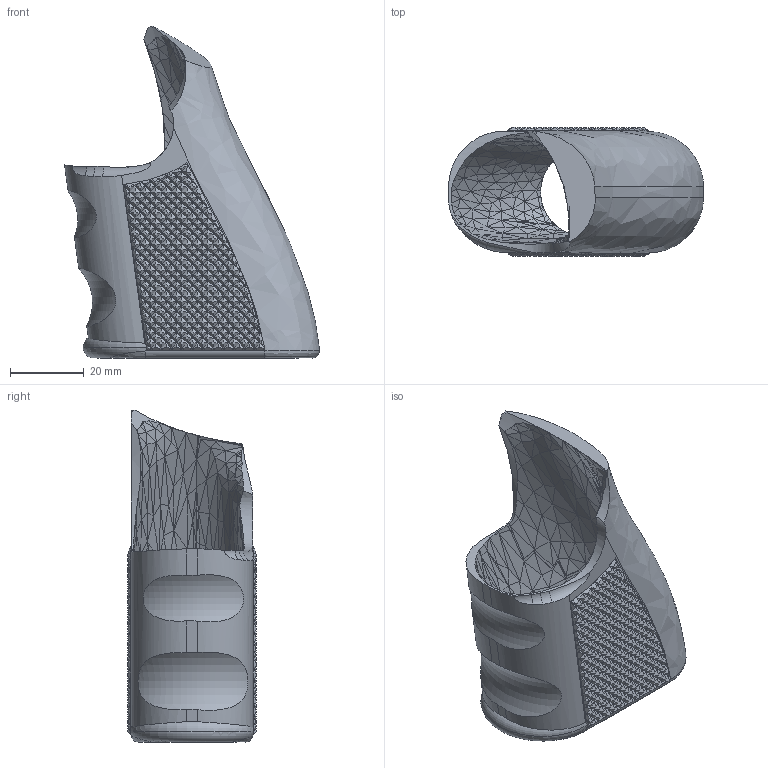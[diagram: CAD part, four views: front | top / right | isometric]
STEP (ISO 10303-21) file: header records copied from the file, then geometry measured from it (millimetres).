
FILE_DESCRIPTION(('FreeCAD Model'),'2;1');
FILE_NAME( 'D:/Dropbox/3D Projects/Pistol grip/Oculus Quest 2 Pistol Grip R.step' ,'2021-03-03T16:23:41',('Author'),(''), 'Open CASCADE STEP processor 7.3','FreeCAD','Unknown');
FILE_SCHEMA(('AUTOMOTIVE_DESIGN { 1 0 10303 214 1 1 1 1 }'));
Products named in the file (1): Cut013003005
Bounding box: 69.3 x 35 x 90.24 mm (x, y, z)
Volume: 53890.8 mm3; surface area: 19676.2 mm2
Topology: 1 solids, 1 shells, 4176 faces, 8445 edges, 4270 vertices
Faces by surface type: plane 4137, bspline 11, cylinder 10, extrusion 8, sphere 6, torus 4
Full cylindrical faces by diameter (mm): 24 x1
Entity records: 251208 total; most frequent: CARTESIAN_POINT 58190, DIRECTION 27106, VECTOR 18395, LINE 18387, ORIENTED_EDGE 16890, PCURVE 16890, DEFINITIONAL_REPRESENTATION 16890, EDGE_CURVE 8445
